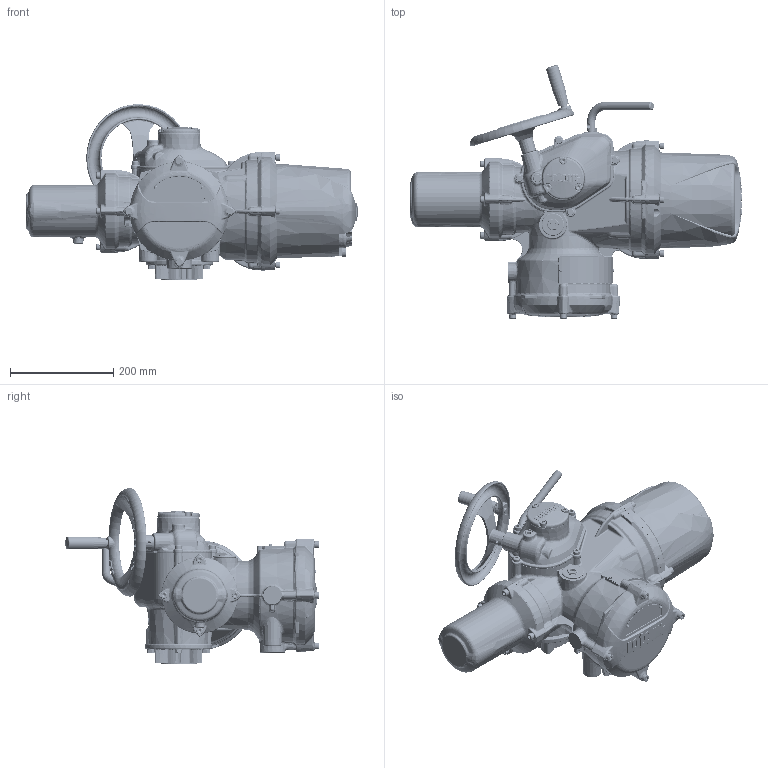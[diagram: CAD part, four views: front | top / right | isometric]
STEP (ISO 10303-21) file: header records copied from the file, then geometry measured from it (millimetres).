
FILE_DESCRIPTION(/* description */ ('Unknown'),/* implementation_level */ '2;1');
FILE_NAME(/* name */ 'IQ10_SHW_SHORT-ECVR_AZ',/* time_stamp */ '2016-02-29T11:24:35+00:00',/* author */ ('Unknown'),/* organization */ ('Unknown'),/* preprocessor_version */ 'ST-DEVELOPER v16',/* originating_system */ 'DEX',/* authorisation */ $);
FILE_SCHEMA (('AUTOMOTIVE_DESIGN {1 0 10303 214 3 1 1}'));
Length unit declared in the file: millimetre
Products named in the file (8): IQ10_SHW_SHORT-ECVR_AZ; II1-01-std; II1-04SHW-std; II1-02AZ_F10-std; II1-04CAP-std; II0-20SHORT-std; II0-55-std; II1-05-std
Assembly tree (7 placements, depth 2):
  IQ10_SHW_SHORT-ECVR_AZ
    II1-01-std
    II1-04SHW-std
    II1-02AZ_F10-std
    II1-04CAP-std
    II0-20SHORT-std
    II0-55-std
    II1-05-std
Bounding box: 641.76 x 489.76 x 340.04 mm (x, y, z)
Volume: 13991982.6 mm3; surface area: 1011363.5 mm2
Topology: 27 solids, 36 shells, 5447 faces, 13442 edges, 7925 vertices
Faces by surface type: bspline 2121, plane 1318, cylinder 813, torus 614, cone 482, sphere 99
Full cylindrical faces by diameter (mm): 1.152 x1, 3 x10, 3.12 x2, 3.14 x2, 3.3 x2, 4.917 x1, 6 x5, 6.2 x2, 6.45 x9, 6.47 x9, 6.5 x1, 6.647 x2, 7 x6, 7.6 x4, 8 x19, 8.1 x1, 8.2 x1, 8.376 x8, 8.5 x8, 9.7 x2, 10 x1, 11.78 x1, 12.1 x1, 13 x20, 13.25 x4, 15.5 x1, 16 x4, 16.186 x1, 16.5 x1, 16.75 x1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
Entity records: 306778 total; most frequent: CARTESIAN_POINT 162024, ORIENTED_EDGE 25088, DIRECTION 18599, EDGE_CURVE 12544, AXIS2_PLACEMENT_3D 8020, VERTEX_POINT 7691, FACE_BOUND 6043, EDGE_LOOP 6014
